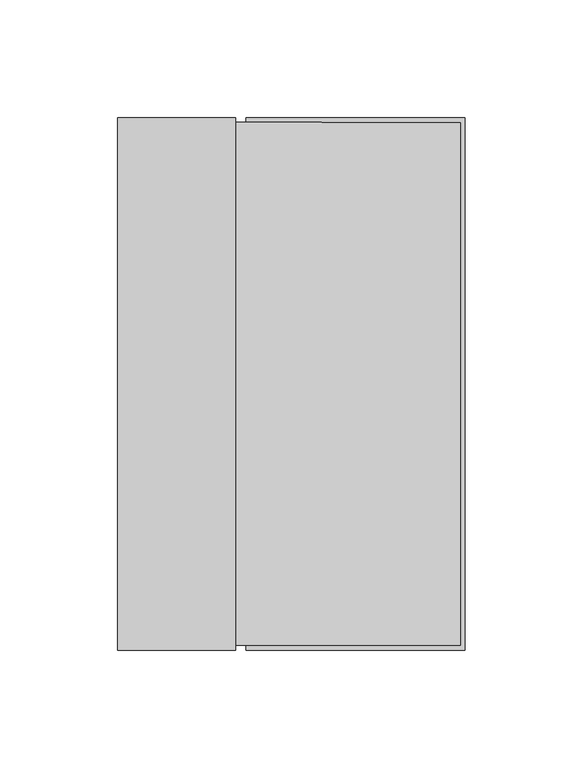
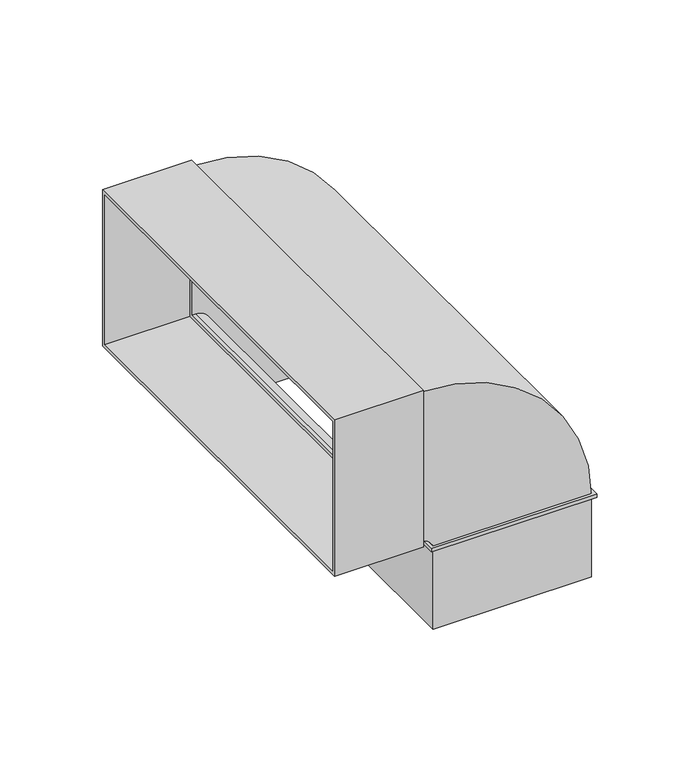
"""IFC4 building model written with IfcOpenShell, lengths in millimetres: proxy geometry, 10811470_D_DFK-BVK90 : 28996396_D_10811470_DFK-BVK90."""

from ifc_helpers import new_model, si_unit, frame, origin, place, context, project, spatial, polyline, circle_curve, outline, extrude, source, transform, mapped, element, save
from ifc_brep_helpers import plane_surface, cylinder_surface, revolved_surface, advanced_brep


def specialty_equipment_c3e30616(model_context):
    return source(origin(), model_context, "Body", "SolidModel", [
        advanced_brep(
        [(50.0, -109.0, 42.5), (143.5, -109.0, -51.0), (143.5, -109.0, -99.0), (58.5, -109.0, -99.0), (58.5, -109.0, -51.0), (50.0, -109.0, -42.5), (48.0, -109.0, -42.5), (48.0, -109.0, 42.5), (50.0, 109.0, -42.5), (48.0, 109.0, -42.5), (58.5, 109.0, -51.0), (58.5, 109.0, -99.0), (143.5, 109.0, -99.0), (143.5, 109.0, -51.0), (50.0, 109.0, 42.5), (48.0, 109.0, 42.5), (145.5, -111.0, -99.0), (56.5, -111.0, -99.0), (56.5, 111.0, -99.0), (145.5, 111.0, -99.0), (56.5, 111.0, -51.0), (50.0, 111.0, -44.5), (48.0, 111.0, -44.5), (48.0, 111.0, 44.5), (50.0, 111.0, 44.5), (145.5, 111.0, -51.0), (50.0, -111.0, -44.5), (48.0, -111.0, -44.5), (145.5, -111.0, -51.0), (50.0, -111.0, 44.5), (48.0, -111.0, 44.5), (56.5, -111.0, -51.0)],
        [
            (0, 1, circle_curve(frame((50.0, -109.0, -51.0), z_axis=(0.0, 1.0, 0.0), x_axis=(0.0, 0.0, 1.0)), 93.5)),
            (1, 2),
            (2, 3),
            (3, 4),
            (4, 5, circle_curve(frame((50.0, -109.0, -51.0), z_axis=(0.0, -1.0, 0.0), x_axis=(0.0, 0.0, 1.0)), 8.5)),
            (5, 6),
            (6, 7),
            (7, 0),
            (5, 8),
            (8, 9),
            (9, 6),
            (8, 10, circle_curve(frame((50.0, 109.0, -51.0), z_axis=(0.0, 1.0, 0.0), x_axis=(0.0, 0.0, 1.0)), 8.5)),
            (10, 11),
            (11, 12),
            (12, 13),
            (13, 14, circle_curve(frame((50.0, 109.0, -51.0), z_axis=(0.0, -1.0, 0.0), x_axis=(0.0, 0.0, 1.0)), 93.5)),
            (14, 15),
            (15, 9),
            (14, 0),
            (7, 15),
            (16, 17),
            (17, 18),
            (18, 19),
            (19, 16),
            (2, 12),
            (11, 3),
            (18, 20),
            (20, 21, circle_curve(frame((50.0, 111.0, -51.0), z_axis=(0.0, -1.0, 0.0), x_axis=(0.0, 0.0, 1.0)), 6.5)),
            (21, 22),
            (22, 23),
            (23, 24),
            (24, 25, circle_curve(frame((50.0, 111.0, -51.0), z_axis=(0.0, 1.0, 0.0), x_axis=(0.0, 0.0, 1.0)), 95.5)),
            (25, 19),
            (21, 26),
            (26, 27),
            (27, 22),
            (16, 28),
            (28, 29, circle_curve(frame((50.0, -111.0, -51.0), z_axis=(0.0, -1.0, 0.0), x_axis=(0.0, 0.0, 1.0)), 95.5)),
            (29, 30),
            (30, 27),
            (26, 31, circle_curve(frame((50.0, -111.0, -51.0), z_axis=(0.0, 1.0, 0.0), x_axis=(0.0, 0.0, 1.0)), 6.5)),
            (31, 17),
            (29, 24),
            (23, 30),
            (4, 10),
            (13, 1),
            (28, 25),
            (20, 31),
        ],
        [
            plane_surface(frame((0.0, -109.0, 42.5), z_axis=(0.0, 1.0, 0.0), x_axis=(1.0, 0.0, 0.0))),
            plane_surface(frame((0.0, -109.0, -42.5), z_axis=(0.0, 0.0, 1.0), x_axis=(1.0, 0.0, 0.0))),
            plane_surface(frame((0.0, 109.0, -42.5), z_axis=(0.0, -1.0, 0.0), x_axis=(1.0, 0.0, 0.0))),
            plane_surface(frame((0.0, 109.0, 42.5), z_axis=(0.0, 0.0, -1.0), x_axis=(1.0, 0.0, 0.0))),
            plane_surface(frame((101.0, 0.0, -99.0), z_axis=(0.0, 0.0, -1.0), x_axis=(0.0, -1.0, 0.0))),
            plane_surface(frame((0.0, 111.0, 44.5), z_axis=(0.0, 1.0, 0.0), x_axis=(1.0, 0.0, 0.0))),
            plane_surface(frame((0.0, 111.0, -44.5), z_axis=(0.0, 0.0, -1.0), x_axis=(1.0, 0.0, 0.0))),
            plane_surface(frame((0.0, -111.0, -44.5), z_axis=(0.0, -1.0, 0.0), x_axis=(1.0, 0.0, 0.0))),
            plane_surface(frame((0.0, -111.0, 44.5), z_axis=(0.0, 0.0, 1.0), x_axis=(1.0, 0.0, 0.0))),
            cylinder_surface(frame((50.0, 0.0, -51.0), z_axis=(0.0, 1.0, 0.0), x_axis=(0.0, 0.0, 1.0)), 8.5),
            revolved_surface(polyline([(50.0, 109.0, 42.5), (50.0, -109.0, 42.5)]), (50.0, 0.0, -51.0), (0.0, 1.0, 0.0)),
            cylinder_surface(frame((50.0, 0.0, -51.0), z_axis=(0.0, 1.0, 0.0), x_axis=(0.0, 0.0, 1.0)), 95.5),
            revolved_surface(polyline([(50.0, 111.0, -44.5), (50.0, -111.0, -44.5)]), (50.0, 0.0, -51.0), (0.0, 1.0, 0.0)),
            plane_surface(frame((58.5, -109.0, -51.0), z_axis=(1.0, 0.0, 0.0), x_axis=(0.0, 0.0, -1.0))),
            plane_surface(frame((143.5, 109.0, -51.0), z_axis=(-1.0, 0.0, 0.0), x_axis=(0.0, 0.0, -1.0))),
            plane_surface(frame((145.5, -111.0, -51.0), z_axis=(1.0, 0.0, 0.0), x_axis=(0.0, 0.0, -1.0))),
            plane_surface(frame((56.5, 111.0, -51.0), z_axis=(-1.0, 0.0, 0.0), x_axis=(0.0, 0.0, -1.0))),
            plane_surface(frame((48.0, -111.0, 44.5), z_axis=(-1.0, 0.0, 0.0), x_axis=(0.0, 0.0, -1.0))),
        ],
        [
            (0, [[1, 2, 3, 4, 5, 6, 7, 8]]),
            (1, [[9, 10, 11, -6]]),
            (2, [[12, 13, 14, 15, 16, 17, 18, -10]]),
            (3, [[19, -8, 20, -17]]),
            (4, [[21, 22, 23, 24], [-3, 25, -14, 26]]),
            (5, [[-23, 27, 28, 29, 30, 31, 32, 33]]),
            (6, [[34, 35, 36, -29]]),
            (7, [[-21, 37, 38, 39, 40, -35, 41, 42]]),
            (8, [[43, -31, 44, -39]]),
            (9, [[-5, 45, -12, -9]]),
            (10, [[-1, -19, -16, 46]]),
            (11, [[-32, -43, -38, 47]]),
            (12, [[-28, 48, -41, -34]]),
            (13, [[-4, -26, -13, -45]]),
            (14, [[-2, -46, -15, -25]]),
            (15, [[-24, -33, -47, -37]]),
            (16, [[-22, -42, -48, -27]]),
            (17, [[-30, -36, -40, -44], [-7, -11, -18, -20]]),
        ],
    ),
        extrude(outline(polyline([(-113.0, 46.5), (113.0, 46.5), (113.0, -46.5), (-113.0, -46.5), (-113.0, 46.5)]), holes=[polyline([(111.0, 44.5), (-111.0, 44.5), (-111.0, -44.5), (111.0, -44.5), (111.0, 44.5)])]), frame((0.0, 0.0, 0.0), z_axis=(1.0, 0.0, 0.0), x_axis=(0.0, 1.0, 0.0)), (0.0, 0.0, 1.0), 50.0),
        extrude(outline(polyline([(54.5, 113.0), (147.5, 113.0), (147.5, -113.0), (54.5, -113.0), (54.5, 113.0)]), holes=[polyline([(56.5, -111.0), (145.5, -111.0), (145.5, 111.0), (56.5, 111.0), (56.5, -111.0)])]), frame((0.0, 0.0, -51.0), z_axis=(0.0, 0.0, 1.0), x_axis=(1.0, 0.0, 0.0)), (0.0, 0.0, 1.0), 2.0),
    ])


if __name__ == "__main__":
    model = new_model("IFC4")
    model_context = context("Model", 3, world=origin())
    ifc_project = project(units=[si_unit("LENGTHUNIT", "METRE", prefix="MILLI")], contexts=[model_context])
    site = spatial("IfcSite", under=ifc_project)
    building = spatial("IfcBuilding", under=site)
    placement = place(None, origin())
    specialty_equipment_shape = specialty_equipment_c3e30616(model_context)
    element("IfcBuildingElementProxy", 1, Name="10811470_D_DFK-BVK90 : 28996396_D_10811470_DFK-BVK90", ObjectType="10811470_D_DFK-BVK90 : 28996396_D_10811470_DFK-BVK90", at=placement, inside=building, context=model_context, shape_type="MappedRepresentation", body=[
        mapped(specialty_equipment_shape, transform((0.0, 0.0, 0.0), x_axis=(1.0, 0.0, 0.0), y_axis=(0.0, 1.0, 0.0), z_axis=(0.0, 0.0, 1.0))),
    ])
    save(model, "model.ifc")
